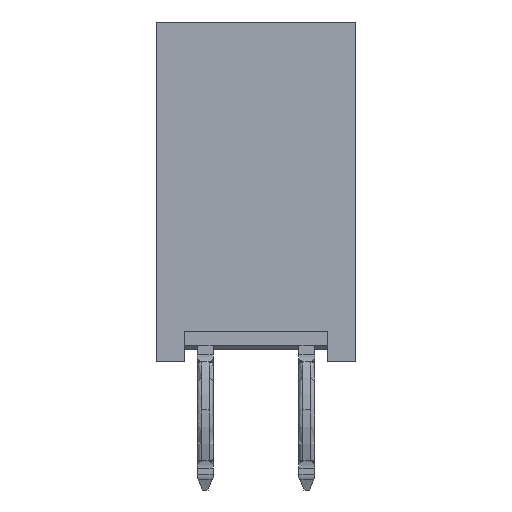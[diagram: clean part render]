
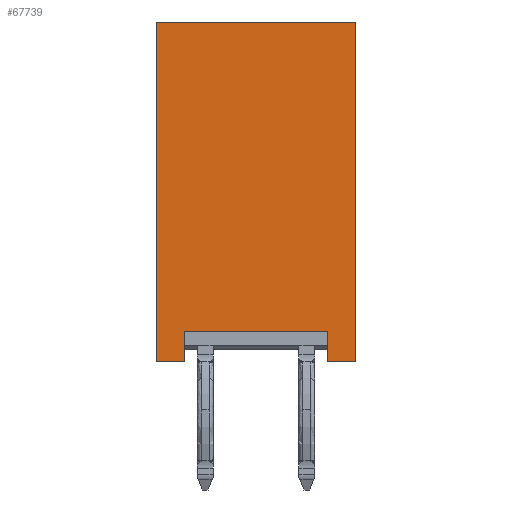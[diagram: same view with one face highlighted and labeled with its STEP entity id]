
A CAD part, left-side view. The second image highlights one B-rep face of the part: STEP entity #67739.
In plain terms, the highlighted planar face has unit normal (-1, 0, 0).
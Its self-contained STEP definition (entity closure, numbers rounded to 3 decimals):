
#2253 = VECTOR ( 'NONE', #8309, 1000. ) ;
#2488 = VECTOR ( 'NONE', #44236, 1000. ) ;
#2511 = VECTOR ( 'NONE', #44322, 1000. ) ;
#2751 = VECTOR ( 'NONE', #46687, 1000. ) ;
#2761 = VECTOR ( 'NONE', #46803, 1000. ) ;
#3535 = ORIENTED_EDGE ( 'NONE', *, *, #28431, .F. ) ;
#3536 = ORIENTED_EDGE ( 'NONE', *, *, #27701, .T. ) ;
#3537 = ORIENTED_EDGE ( 'NONE', *, *, #27479, .T. ) ;
#3538 = ORIENTED_EDGE ( 'NONE', *, *, #27719, .F. ) ;
#3539 = ORIENTED_EDGE ( 'NONE', *, *, #27969, .F. ) ;
#3540 = ORIENTED_EDGE ( 'NONE', *, *, #28291, .T. ) ;
#3541 = ORIENTED_EDGE ( 'NONE', *, *, #28287, .T. ) ;
#3542 = ORIENTED_EDGE ( 'NONE', *, *, #27955, .F. ) ;
#8307 = LINE ( 'NONE', #8308, #2253 ) ;
#8308 = CARTESIAN_POINT ( 'NONE',  ( -94.804, 25.93, -4.25 ) ) ;
#8309 = DIRECTION ( 'NONE',  ( 0., -1., 0. ) ) ;
#23724 = AXIS2_PLACEMENT_3D ( 'NONE', #80015, #80026, #80027 ) ;
#27479 = EDGE_CURVE ( 'NONE', #76512, #76536, #8307, .T. ) ;
#27701 = EDGE_CURVE ( 'NONE', #76829, #76512, #44234, .T. ) ;
#27719 = EDGE_CURVE ( 'NONE', #76855, #76536, #44320, .T. ) ;
#27955 = EDGE_CURVE ( 'NONE', #77168, #76850, #46683, .T. ) ;
#27969 = EDGE_CURVE ( 'NONE', #77196, #76855, #46795, .T. ) ;
#28287 = EDGE_CURVE ( 'NONE', #39159, #76850, #32108, .T. ) ;
#28291 = EDGE_CURVE ( 'NONE', #77196, #39159, #32121, .T. ) ;
#28431 = EDGE_CURVE ( 'NONE', #76829, #77168, #34808, .T. ) ;
#32108 = LINE ( 'NONE', #32112, #32620 ) ;
#32112 = CARTESIAN_POINT ( 'NONE',  ( -94.804, 25.93, -4.25 ) ) ;
#32113 = DIRECTION ( 'NONE',  ( 0., -1., 0. ) ) ;
#32121 = LINE ( 'NONE', #32125, #32624 ) ;
#32125 = CARTESIAN_POINT ( 'NONE',  ( -94.804, 30.93, 4.25 ) ) ;
#32126 = DIRECTION ( 'NONE',  ( 0., 0., -1. ) ) ;
#32620 = VECTOR ( 'NONE', #32113, 1000. ) ;
#32624 = VECTOR ( 'NONE', #32126, 1000. ) ;
#32769 = VECTOR ( 'NONE', #34822, 1000. ) ;
#34783 = CARTESIAN_POINT ( 'NONE',  ( -94.804, 30.93, -3.48 ) ) ;
#34808 = LINE ( 'NONE', #34783, #32769 ) ;
#34822 = DIRECTION ( 'NONE',  ( 0., 1., 0. ) ) ;
#39159 = VERTEX_POINT ( 'NONE', #60374 ) ;
#44234 = LINE ( 'NONE', #44235, #2488 ) ;
#44235 = CARTESIAN_POINT ( 'NONE',  ( -94.804, 26.635, -3.48 ) ) ;
#44236 = DIRECTION ( 'NONE',  ( 0., 0., -1. ) ) ;
#44320 = LINE ( 'NONE', #44321, #2511 ) ;
#44321 = CARTESIAN_POINT ( 'NONE',  ( -94.804, 25.93, 4.25 ) ) ;
#44322 = DIRECTION ( 'NONE',  ( 0., 0., -1. ) ) ;
#46683 = LINE ( 'NONE', #46685, #2751 ) ;
#46685 = CARTESIAN_POINT ( 'NONE',  ( -94.804, 30.225, 4.25 ) ) ;
#46687 = DIRECTION ( 'NONE',  ( 0., 0., -1. ) ) ;
#46795 = LINE ( 'NONE', #46800, #2761 ) ;
#46800 = CARTESIAN_POINT ( 'NONE',  ( -94.804, 30.93, 4.25 ) ) ;
#46803 = DIRECTION ( 'NONE',  ( 0., -1., 0. ) ) ;
#60374 = CARTESIAN_POINT ( 'NONE',  ( -94.804, 30.93, -4.25 ) ) ;
#61316 = CARTESIAN_POINT ( 'NONE',  ( -94.804, 26.635, -4.25 ) ) ;
#61388 = CARTESIAN_POINT ( 'NONE',  ( -94.804, 25.93, -4.25 ) ) ;
#66638 = CARTESIAN_POINT ( 'NONE',  ( -94.804, 26.635, -3.48 ) ) ;
#66682 = CARTESIAN_POINT ( 'NONE',  ( -94.804, 30.225, -4.25 ) ) ;
#66691 = CARTESIAN_POINT ( 'NONE',  ( -94.804, 25.93, 4.25 ) ) ;
#67739 = ADVANCED_FACE ( 'NONE', ( #80023 ), #80024, .F. ) ;
#67980 = CARTESIAN_POINT ( 'NONE',  ( -94.804, 30.225, -3.48 ) ) ;
#68079 = CARTESIAN_POINT ( 'NONE',  ( -94.804, 30.93, 4.25 ) ) ;
#76512 = VERTEX_POINT ( 'NONE', #61316 ) ;
#76536 = VERTEX_POINT ( 'NONE', #61388 ) ;
#76829 = VERTEX_POINT ( 'NONE', #66638 ) ;
#76850 = VERTEX_POINT ( 'NONE', #66682 ) ;
#76855 = VERTEX_POINT ( 'NONE', #66691 ) ;
#77168 = VERTEX_POINT ( 'NONE', #67980 ) ;
#77196 = VERTEX_POINT ( 'NONE', #68079 ) ;
#80015 = CARTESIAN_POINT ( 'NONE',  ( -94.804, 30.93, 4.25 ) ) ;
#80023 = FACE_OUTER_BOUND ( 'NONE', #84346, .T. ) ;
#80024 = PLANE ( 'NONE',  #23724 ) ;
#80026 = DIRECTION ( 'NONE',  ( 1., 0., 0. ) ) ;
#80027 = DIRECTION ( 'NONE',  ( 0., 1., 0. ) ) ;
#84346 = EDGE_LOOP ( 'NONE', ( #3535, #3536, #3537, #3538, #3539, #3540, #3541, #3542 ) ) ;
